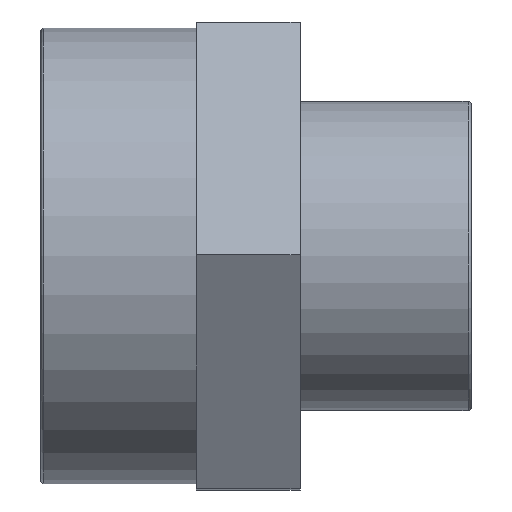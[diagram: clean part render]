
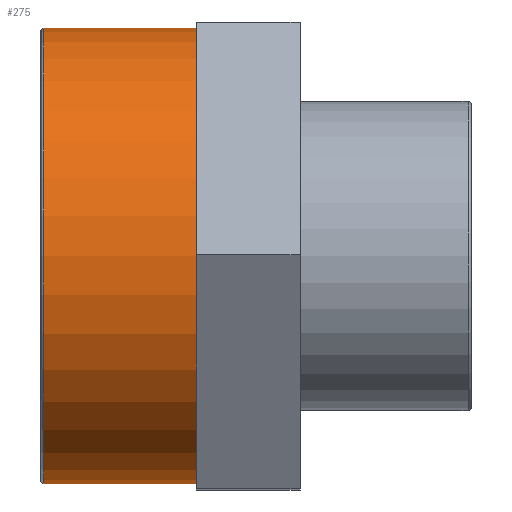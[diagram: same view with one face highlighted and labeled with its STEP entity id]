
A CAD part, top view. The second image highlights one B-rep face of the part: STEP entity #275.
In plain terms, the highlighted cylindrical face has radius 43.942 mm (diameter 87.884 mm), a full revolution.
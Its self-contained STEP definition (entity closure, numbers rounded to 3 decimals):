
#18=CYLINDRICAL_SURFACE('',#307,43.942);
#28=FACE_BOUND('',#92,.T.);
#42=CIRCLE('',#306,43.942);
#43=CIRCLE('',#308,43.942);
#63=FACE_OUTER_BOUND('',#91,.T.);
#91=EDGE_LOOP('',(#231));
#92=EDGE_LOOP('',(#232));
#157=VERTEX_POINT('',#460);
#158=VERTEX_POINT('',#463);
#187=EDGE_CURVE('',#157,#157,#42,.T.);
#188=EDGE_CURVE('',#158,#158,#43,.T.);
#231=ORIENTED_EDGE('',*,*,#188,.T.);
#232=ORIENTED_EDGE('',*,*,#187,.F.);
#275=ADVANCED_FACE('',(#63,#28),#18,.T.);
#306=AXIS2_PLACEMENT_3D('',#461,#382,#383);
#307=AXIS2_PLACEMENT_3D('',#462,#384,#385);
#308=AXIS2_PLACEMENT_3D('',#464,#386,#387);
#382=DIRECTION('center_axis',(-1.,0.,0.));
#383=DIRECTION('ref_axis',(0.,1.,0.));
#384=DIRECTION('center_axis',(-1.,0.,0.));
#385=DIRECTION('ref_axis',(0.,-1.,0.));
#386=DIRECTION('center_axis',(-1.,0.,0.));
#387=DIRECTION('ref_axis',(0.,0.,1.));
#460=CARTESIAN_POINT('',(-40.904,-43.942,0.));
#461=CARTESIAN_POINT('Origin',(-40.904,0.,0.));
#462=CARTESIAN_POINT('Origin',(-26.5,0.,0.));
#463=CARTESIAN_POINT('',(-11.5,-43.942,0.));
#464=CARTESIAN_POINT('Origin',(-11.5,0.,0.));
